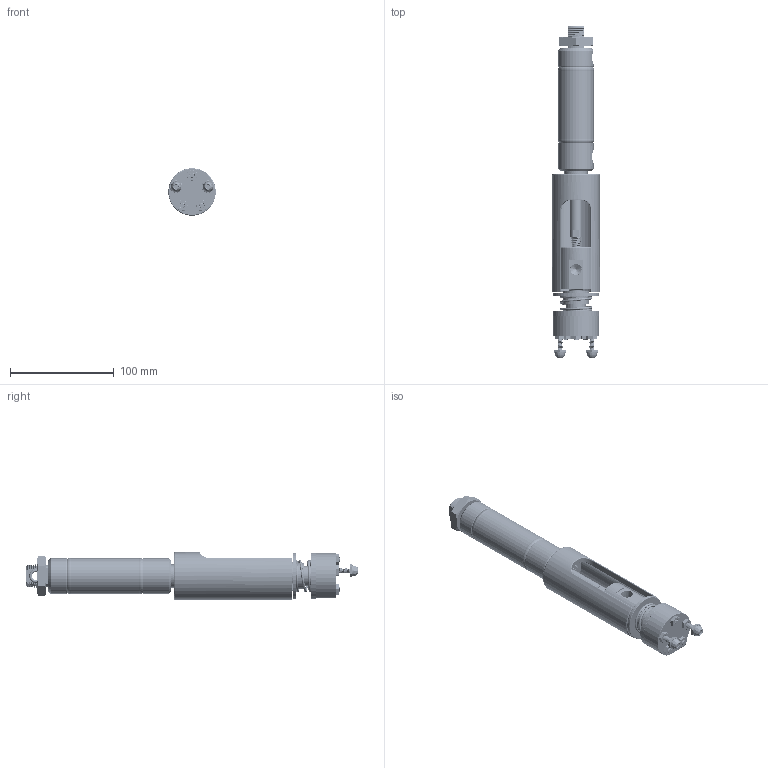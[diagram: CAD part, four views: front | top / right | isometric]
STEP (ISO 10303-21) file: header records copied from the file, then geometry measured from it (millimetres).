
FILE_DESCRIPTION(/* description */ (''),/* implementation_level */ '2;1');
FILE_NAME(/* name */ '! QD_Assembly.step',/* time_stamp */ '2026-05-22T17:06:58-04:00',/* author */ (''),/* organization */ (''),/* preprocessor_version */ 'ST-DEVELOPER v20.1',/* originating_system */ 'Autodesk Translation Framework v15.8.0.0',/* authorisation */ '');
FILE_SCHEMA (('AUTOMOTIVE_DESIGN { 1 0 10303 214 3 1 1 }'));
Products named in the file (19): ! QD_Assembly; Retainer; Outlet Port; Inlet Probe; Sleeve; Modeled Plateless Cylinder Housing; No. 19 1/16" PTFE O-ring 9559k114; 9559K114_Ultra-Chemical-Resistant Rigid PTFE O-Ring; 3/4" Self Lock Snap Ring 98368A190; 98368A190_Self-Locking External Retaining Rings; 1.25" Bore, 1.5" Stroke Pneumatic Cylinder 4952K718; 4952K718_Round Body Air Cylinder; 3/16" Stainless Steel Ball 9291K45; 9291K45_Tight-Tolerance Multipurpose 304 Stainless Steel Ball; 92210A324_18-8 Stainless Steel Hex Drive Flat Head Screw; 91841A195_Corrosion-Resistant 18-8 Stainless Steel Hex Nuts; 92210A312_18-8 Stainless Steel Hex Drive Flat Head Screw; ANIMATE_PC; 94301A125_Open-End Cap Nut
Assembly tree (18 placements, depth 3):
  ! QD_Assembly
    Retainer
    Outlet Port
    Inlet Probe
    Sleeve
    Modeled Plateless Cylinder Housing
    No. 19 1/16" PTFE O-ring 9559k114
      9559K114_Ultra-Chemical-Resistant Rigid PTFE O-Ring
    3/4" Self Lock Snap Ring 98368A190
      98368A190_Self-Locking External Retaining Rings
    1.25" Bore, 1.5" Stroke Pneumatic Cylinder 4952K718
      4952K718_Round Body Air Cylinder
    3/16" Stainless Steel Ball 9291K45
      9291K45_Tight-Tolerance Multipurpose 304 Stainless Steel Ball
    92210A324_18-8 Stainless Steel Hex Drive Flat Head Screw
    91841A195_Corrosion-Resistant 18-8 Stainless Steel Hex Nuts
    92210A312_18-8 Stainless Steel Hex Drive Flat Head Screw
    ANIMATE_PC
    94301A125_Open-End Cap Nut
Bounding box: 45.72 x 319.64 x 45.72 mm (x, y, z)
Volume: 272839.3 mm3; surface area: 105941.3 mm2
Topology: 32 solids, 32 shells, 1449 faces, 3871 edges, 2500 vertices
Faces by surface type: cylinder 779, plane 258, cone 233, bspline 135, torus 38, sphere 6
Full cylindrical faces by diameter (mm): 3.048 x2, 3.795 x278, 4.826 x280, 4.978 x10, 5.505 x5, 6.35 x1, 6.695 x2, 7.168 x8, 7.976 x1, 8.001 x1, 9.144 x1, 9.525 x8, 10.719 x2, 11.1 x3, 12.7 x1, 12.878 x1, 13.081 x2, 13.716 x1, 13.779 x2, 13.911 x2, 17.462 x1, 17.475 x1, 18.669 x1, 19.05 x1, 19.202 x1, 19.868 x11, 22.225 x14, 23.901 x1, 24.13 x1, 25.4 x1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
Entity records: 134009 total; most frequent: CARTESIAN_POINT 102332, ORIENTED_EDGE 7716, DIRECTION 5134, EDGE_CURVE 3858, VERTEX_POINT 2500, AXIS2_PLACEMENT_3D 1990, EDGE_LOOP 1554, FACE_OUTER_BOUND 1449
